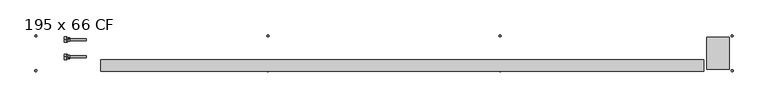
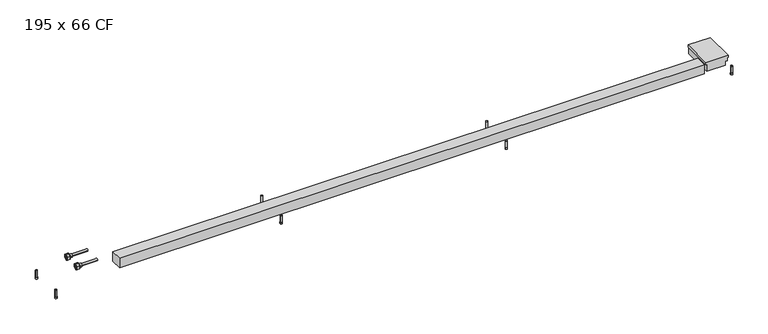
"""IFC4 building model written with IfcOpenShell, lengths in millimetres: proxy geometry, Mohlenhof_Внутрипольный конвектор_QSKM CF : 195 x 66 CF."""

import ifcopenshell
import ifcopenshell.guid

model = None  # the IFC model being written
_history = None  # IfcOwnerHistory: only IFC2X3 demands one
_inside = {}  # id of a spatial element -> (the spatial element, [elements in it])
_under = {}  # id of a project, library or spatial element -> (it, [spatial elements below it])
_declared = {}  # id of a project -> (the project, [libraries it declares])
_typed = {}  # id of a type object -> (the type object, [elements of that type])
_made_of = {}  # id of a material, layer set ... -> (it, [elements and type objects made of it])


def new_model(schema):
    """Start an empty IFC model of exactly this schema.

    Asked for "IFC4X3", IfcOpenShell would pick the latest addendum, in which some entities
    have other attributes; the version numbers below select the first issue.
    IFC2X3 requires an IfcOwnerHistory on every rooted entity: one is made here for all.
    """
    global model, _history
    if schema == "IFC4X3":
        model = ifcopenshell.file(schema_version=(4, 3, 0, 0))
    else:
        model = ifcopenshell.file(schema=schema)
    _inside.clear()
    _under.clear()
    _declared.clear()
    _typed.clear()
    _made_of.clear()
    _history = None
    if model.schema == "IFC2X3":
        org = make("IfcOrganization", Name="unknown")
        user = make(
            "IfcPersonAndOrganization",
            ThePerson=make("IfcPerson", FamilyName="unknown"),
            TheOrganization=org,
        )
        app = make(
            "IfcApplication",
            ApplicationDeveloper=org,
            Version="unknown",
            ApplicationFullName="unknown",
            ApplicationIdentifier="unknown",
        )
        _history = make(
            "IfcOwnerHistory",
            OwningUser=user,
            OwningApplication=app,
            ChangeAction="ADDED",
            CreationDate=0,
        )
    return model


def make(cls, **values):
    """One entity of the class cls with the attributes given. An attribute that is None is left unset."""
    return model.create_entity(
        cls, **{name: value for name, value in values.items() if value is not None}
    )


def rooted(cls, **values):
    """An entity with a GlobalId (a new one), such as an element, a storey or a relation."""
    return make(cls, GlobalId=ifcopenshell.guid.new(), OwnerHistory=_history, **values)


def si_unit(unit_type, name, prefix=None):
    """IfcSIUnit, for example si_unit("LENGTHUNIT", "METRE", prefix="MILLI")."""
    return make("IfcSIUnit", UnitType=unit_type, Prefix=prefix, Name=name)


def assignment(units):
    """IfcUnitAssignment: the units of a project."""
    return None if units is None else make("IfcUnitAssignment", Units=units)


def point(xyz):
    """IfcCartesianPoint."""
    return None if xyz is None else make("IfcCartesianPoint", Coordinates=xyz)


def direction(xyz):
    """IfcDirection."""
    return None if xyz is None else make("IfcDirection", DirectionRatios=xyz)


def frame(location, z_axis=None, x_axis=None):
    """IfcAxis2Placement3D, a coordinate frame: its origin and axes. An axis left out is left unset."""
    return make(
        "IfcAxis2Placement3D",
        Location=point(location),
        Axis=direction(z_axis),
        RefDirection=direction(x_axis),
    )


def frame_2d(location, x_axis=None):
    """IfcAxis2Placement2D, a coordinate frame in the plane: its origin and x axis."""
    return make(
        "IfcAxis2Placement2D", Location=point(location), RefDirection=direction(x_axis)
    )


def origin():
    """The frame at (0, 0, 0) with its axes left unset."""
    return frame((0.0, 0.0, 0.0))


def place(relative_to, where):
    """IfcLocalPlacement: puts the frame where relative to a parent placement (None: the world)."""
    return make(
        "IfcLocalPlacement", PlacementRelTo=relative_to, RelativePlacement=where
    )


def context(
    kind, dimensions, precision=None, world=None, true_north=None, identifier=None
):
    """IfcGeometricRepresentationContext, for example the 3D "Model" context."""
    return make(
        "IfcGeometricRepresentationContext",
        ContextIdentifier=identifier,
        ContextType=kind,
        CoordinateSpaceDimension=dimensions,
        Precision=precision,
        WorldCoordinateSystem=world,
        TrueNorth=true_north,
    )


def project(units=None, contexts=None):
    """IfcProject with its units and contexts."""
    return rooted(
        "IfcProject",
        Name="project",
        RepresentationContexts=contexts,
        UnitsInContext=assignment(units),
    )


def spatial(cls, under=None, at=None, **own):
    """A site, building, storey or space (cls), placed at a placement, below another one or the project."""
    s = rooted(cls, ObjectPlacement=at, **own)
    if under is not None:
        _under.setdefault(under.id(), (under, []))[1].append(s)
    return s


def polyline(points):
    """IfcPolyline through the points."""
    return make("IfcPolyline", Points=[point(p) for p in points])


def circle_curve(where, radius):
    """IfcCircle in the frame where."""
    return make("IfcCircle", Position=where, Radius=radius)


def trimmed(basis, trim1, trim2, sense, master):
    """IfcTrimmedCurve: the piece of a basis curve between two trims."""
    return make(
        "IfcTrimmedCurve",
        BasisCurve=basis,
        Trim1=trim1,
        Trim2=trim2,
        SenseAgreement=sense,
        MasterRepresentation=master,
    )


def segment(curve, same_sense, transition):
    """IfcCompositeCurveSegment."""
    return make(
        "IfcCompositeCurveSegment",
        Transition=transition,
        SameSense=same_sense,
        ParentCurve=curve,
    )


def composite_curve(segments, self_intersect=None):
    """IfcCompositeCurve: segments joined end to end."""
    return make("IfcCompositeCurve", Segments=segments, SelfIntersect=self_intersect)


def outline(outer, holes=None, kind="AREA"):
    """IfcArbitraryClosedProfileDef: a profile drawn as a closed curve; with holes, ...WithVoids."""
    if holes is None:
        return make("IfcArbitraryClosedProfileDef", ProfileType=kind, OuterCurve=outer)
    return make(
        "IfcArbitraryProfileDefWithVoids",
        ProfileType=kind,
        OuterCurve=outer,
        InnerCurves=holes,
    )


def extrude(swept, where, along, depth):
    """IfcExtrudedAreaSolid: the profile swept, set in the frame where, extruded along a direction by depth."""
    return make(
        "IfcExtrudedAreaSolid",
        SweptArea=swept,
        Position=where,
        ExtrudedDirection=direction(along),
        Depth=depth,
    )


def shape(context_of_items, identifier, shape_type, items):
    """IfcShapeRepresentation: the items that make up one representation, for example the "Body"."""
    return make(
        "IfcShapeRepresentation",
        ContextOfItems=context_of_items,
        RepresentationIdentifier=identifier,
        RepresentationType=shape_type,
        Items=items,
    )


def source(mapping_origin, context_of_items, identifier, shape_type, items):
    """IfcRepresentationMap: a shape defined once, which mapped items show again and again."""
    return make(
        "IfcRepresentationMap",
        MappingOrigin=mapping_origin,
        MappedRepresentation=shape(context_of_items, identifier, shape_type, items),
    )


def transform(
    local_origin,
    x_axis=None,
    y_axis=None,
    z_axis=None,
    scale=None,
    scale2=None,
    scale3=None,
    uniform=True,
):
    """IfcCartesianTransformationOperator3D, or its non-uniform kind. x_axis, y_axis, z_axis: its Axis1, 2, 3."""
    if uniform:
        return make(
            "IfcCartesianTransformationOperator3D",
            Axis1=direction(x_axis),
            Axis2=direction(y_axis),
            LocalOrigin=point(local_origin),
            Scale=scale,
            Axis3=direction(z_axis),
        )
    return make(
        "IfcCartesianTransformationOperator3DnonUniform",
        Axis1=direction(x_axis),
        Axis2=direction(y_axis),
        LocalOrigin=point(local_origin),
        Scale=scale,
        Axis3=direction(z_axis),
        Scale2=scale2,
        Scale3=scale3,
    )


def mapped(mapping_source, mapping_target):
    """IfcMappedItem: shows the shape of a source again, moved by a transform."""
    return make(
        "IfcMappedItem", MappingSource=mapping_source, MappingTarget=mapping_target
    )


def made_of(thing, what):
    """Note that an element or type object is made of a material, layer set ...; save() writes the relation."""
    if what is not None:
        _made_of.setdefault(what.id(), (what, []))[1].append(thing)
    return thing


def element(
    cls,
    number,
    at=None,
    inside=None,
    cuts=None,
    type_object=None,
    material=None,
    context=None,
    identifier="Body",
    shape_type=None,
    held_by="IfcProductDefinitionShape",
    body=None,
    shapes=None,
    **own,
):
    """One element of the class cls, such as IfcWall. Its Tag is "e" and its number.

    at: its placement. inside: the storey or other place that contains it. cuts: it is an
    opening in that element (IfcRelVoidsElement). A single representation is given by context,
    identifier, shape_type and body (its items); several are given by shapes. held_by: the class
    of the entity that holds the representations. save() writes the other relations.
    """
    e = rooted(cls, Tag="e%d" % number, ObjectPlacement=at, **own)
    if body is not None:
        shapes = [shape(context, identifier, shape_type, body)]
    if shapes is not None:
        e.Representation = make(held_by, Representations=shapes)
    if inside is not None:
        _inside.setdefault(inside.id(), (inside, []))[1].append(e)
    if cuts is not None:
        rooted(
            "IfcRelVoidsElement", RelatingBuildingElement=cuts, RelatedOpeningElement=e
        )
    if type_object is not None:
        _typed.setdefault(type_object.id(), (type_object, []))[1].append(e)
    return made_of(e, material)


def aggregate(whole, parts):
    """IfcRelAggregates: a whole, such as a stair, and the parts it consists of."""
    return rooted("IfcRelAggregates", RelatingObject=whole, RelatedObjects=parts)


def save(model, path):
    """Write the relations noted so far, then the file.

    IfcRelAggregates (storeys below a building ...), IfcRelContainedInSpatialStructure (elements
    in a storey), IfcRelDefinesByType, IfcRelAssociatesMaterial and IfcRelDeclares: one each for
    every whole, place, type object, material and project.
    """
    for whole, parts in _under.values():
        aggregate(whole, parts)
    for where, things in _inside.values():
        rooted(
            "IfcRelContainedInSpatialStructure",
            RelatedElements=things,
            RelatingStructure=where,
        )
    for kind, things in _typed.values():
        rooted("IfcRelDefinesByType", RelatedObjects=things, RelatingType=kind)
    for what, things in _made_of.values():
        rooted("IfcRelAssociatesMaterial", RelatedObjects=things, RelatingMaterial=what)
    for by, libraries in _declared.values():
        rooted("IfcRelDeclares", RelatingContext=by, RelatedDefinitions=libraries)
    model.write(path)


def plane_surface(at):
    """IfcPlane: the flat surface through the origin of the frame at, square to its z axis."""
    return make("IfcPlane", Position=at)


def cylinder_surface(at, radius):
    """IfcCylindricalSurface: all points at the distance radius from the z axis of the frame at."""
    return make("IfcCylindricalSurface", Position=at, Radius=radius)


def revolved_surface(curve, axis_point, axis_direction):
    """IfcSurfaceOfRevolution: the curve turned about the line through axis_point along axis_direction."""
    return make(
        "IfcSurfaceOfRevolution",
        SweptCurve=make("IfcArbitraryOpenProfileDef", ProfileType="CURVE", Curve=curve),
        AxisPosition=make("IfcAxis1Placement", Location=point(axis_point), Axis=direction(axis_direction)),
    )


def advanced_brep(points, edges, surfaces, faces):
    """IfcAdvancedBrep: a solid bounded by faces that lie on surfaces and meet in shared edges.

    An edge is (start, end): straight between two places in points (the first is 0);
    or (start, end, curve); or (start, end, curve, False) where it runs against its curve.
    A face is (place in surfaces, loops), or (place, loops, False) where it looks against
    its surface's normal. A loop lists edges by number (the first is 1), with a minus sign
    where the edge is run from its end to its start. The first loop is the outer one.
    """
    corners = [point(p) for p in points]
    vertices = [make("IfcVertexPoint", VertexGeometry=c) for c in corners]
    made = []
    for start, end, *more in edges:
        made.append(
            make(
                "IfcEdgeCurve",
                EdgeStart=vertices[start],
                EdgeEnd=vertices[end],
                EdgeGeometry=more[0] if more else make("IfcPolyline", Points=[corners[start], corners[end]]),
                SameSense=more[1] if len(more) > 1 else True,
            )
        )
    hull = []
    for where, loops, *sense in faces:
        bounds = []
        for j, loop in enumerate(loops):
            ring = [make("IfcOrientedEdge", EdgeElement=made[abs(k) - 1], Orientation=k > 0) for k in loop]
            bounds.append(
                make(
                    "IfcFaceOuterBound" if j == 0 else "IfcFaceBound",
                    Bound=make("IfcEdgeLoop", EdgeList=ring),
                    Orientation=True,
                )
            )
        hull.append(make("IfcAdvancedFace", Bounds=bounds, FaceSurface=surfaces[where], SameSense=sense[0] if sense else True))
    return make("IfcAdvancedBrep", Outer=make("IfcClosedShell", CfsFaces=hull))


def proxy_195_x_66_cf_45be2cf6(model_context):
    return source(origin(), model_context, "Body", "SolidModel", [
        extrude(outline(composite_curve([segment(trimmed(circle_curve(frame_2d((-508.3333333, -273.5)), 4.5), [point((-512.8333333, -273.5))], [point((-503.8333333, -273.5))], False, "CARTESIAN"), True, "CONTINUOUS"), segment(trimmed(circle_curve(frame_2d((-508.3333333, -273.5)), 4.5), [point((-503.8333333, -273.5))], [point((-512.8333333, -273.5))], False, "CARTESIAN"), True, "CONTINUOUS")], self_intersect=False)), frame((0.0, 0.0, -110.0), z_axis=(0.0, 0.0, 1.0), x_axis=(1.0, 0.0, 0.0)), (0.0, 0.0, 1.0), 7.0),
        extrude(outline(composite_curve([segment(trimmed(circle_curve(frame_2d((-508.3333333, -273.5)), 4.0), [point((-512.3333333, -273.5))], [point((-504.3333333, -273.5))], False, "CARTESIAN"), True, "CONTINUOUS"), segment(trimmed(circle_curve(frame_2d((-508.3333333, -273.5)), 4.0), [point((-504.3333333, -273.5))], [point((-512.3333333, -273.5))], False, "CARTESIAN"), True, "CONTINUOUS")], self_intersect=False)), frame((0.0, 0.0, -103.0), z_axis=(0.0, 0.0, 1.0), x_axis=(1.0, 0.0, 0.0)), (0.0, 0.0, 1.0), 32.5),
        extrude(outline(composite_curve([segment(trimmed(circle_curve(frame_2d((508.3333333, -273.5)), 4.5), [point((503.8333333, -273.5))], [point((512.8333333, -273.5))], False, "CARTESIAN"), True, "CONTINUOUS"), segment(trimmed(circle_curve(frame_2d((508.3333333, -273.5)), 4.5), [point((512.8333333, -273.5))], [point((503.8333333, -273.5))], False, "CARTESIAN"), True, "CONTINUOUS")], self_intersect=False)), frame((0.0, 0.0, -110.0), z_axis=(0.0, 0.0, 1.0), x_axis=(1.0, 0.0, 0.0)), (0.0, 0.0, 1.0), 7.0),
        extrude(outline(composite_curve([segment(trimmed(circle_curve(frame_2d((508.3333333, -273.5)), 4.0), [point((504.3333333, -273.5))], [point((512.3333333, -273.5))], False, "CARTESIAN"), True, "CONTINUOUS"), segment(trimmed(circle_curve(frame_2d((508.3333333, -273.5)), 4.0), [point((512.3333333, -273.5))], [point((504.3333333, -273.5))], False, "CARTESIAN"), True, "CONTINUOUS")], self_intersect=False)), frame((0.0, 0.0, -103.0), z_axis=(0.0, 0.0, 1.0), x_axis=(1.0, 0.0, 0.0)), (0.0, 0.0, 1.0), 32.5),
        extrude(outline(composite_curve([segment(trimmed(circle_curve(frame_2d((-508.3333333, -121.5)), 4.5), [point((-512.8333333, -121.5))], [point((-503.8333333, -121.5))], False, "CARTESIAN"), True, "CONTINUOUS"), segment(trimmed(circle_curve(frame_2d((-508.3333333, -121.5)), 4.5), [point((-503.8333333, -121.5))], [point((-512.8333333, -121.5))], False, "CARTESIAN"), True, "CONTINUOUS")], self_intersect=False)), frame((0.0, 0.0, -110.0), z_axis=(0.0, 0.0, 1.0), x_axis=(1.0, 0.0, 0.0)), (0.0, 0.0, 1.0), 7.0),
        extrude(outline(composite_curve([segment(trimmed(circle_curve(frame_2d((-508.3333333, -121.5)), 4.0), [point((-512.3333333, -121.5))], [point((-504.3333333, -121.5))], False, "CARTESIAN"), True, "CONTINUOUS"), segment(trimmed(circle_curve(frame_2d((-508.3333333, -121.5)), 4.0), [point((-504.3333333, -121.5))], [point((-512.3333333, -121.5))], False, "CARTESIAN"), True, "CONTINUOUS")], self_intersect=False)), frame((0.0, 0.0, -103.0), z_axis=(0.0, 0.0, 1.0), x_axis=(1.0, 0.0, 0.0)), (0.0, 0.0, 1.0), 32.5),
        extrude(outline(composite_curve([segment(trimmed(circle_curve(frame_2d((508.3333333, -121.5)), 4.5), [point((503.8333333, -121.5))], [point((512.8333333, -121.5))], False, "CARTESIAN"), True, "CONTINUOUS"), segment(trimmed(circle_curve(frame_2d((508.3333333, -121.5)), 4.5), [point((512.8333333, -121.5))], [point((503.8333333, -121.5))], False, "CARTESIAN"), True, "CONTINUOUS")], self_intersect=False)), frame((0.0, 0.0, -110.0), z_axis=(0.0, 0.0, 1.0), x_axis=(1.0, 0.0, 0.0)), (0.0, 0.0, 1.0), 7.0),
        extrude(outline(composite_curve([segment(trimmed(circle_curve(frame_2d((508.3333333, -121.5)), 4.0), [point((504.3333333, -121.5))], [point((512.3333333, -121.5))], False, "CARTESIAN"), True, "CONTINUOUS"), segment(trimmed(circle_curve(frame_2d((508.3333333, -121.5)), 4.0), [point((512.3333333, -121.5))], [point((504.3333333, -121.5))], False, "CARTESIAN"), True, "CONTINUOUS")], self_intersect=False)), frame((0.0, 0.0, -103.0), z_axis=(0.0, 0.0, 1.0), x_axis=(1.0, 0.0, 0.0)), (0.0, 0.0, 1.0), 32.5),
        advanced_brep(
        [(-1389.0, -213.0, -41.0), (-1389.0, -201.0, -41.0), (-1389.0, -225.0, -41.0), (-1376.5, -220.5, -41.0), (-1376.5, -205.5, -41.0), (-1376.5, -213.0, -41.0), (-1384.0, -220.5, -41.0), (-1384.0, -205.5, -41.0)],
        [
            (0, 1),
            (1, 2, circle_curve(frame((-1389.0, -213.0, -41.0), z_axis=(-1.0, 0.0, 0.0), x_axis=(0.0, 1.0, 0.0)), 12.0)),
            (2, 0),
            (2, 1, circle_curve(frame((-1389.0, -213.0, -41.0), z_axis=(-1.0, 0.0, 0.0), x_axis=(0.0, 1.0, 0.0)), 12.0)),
            (3, 4, circle_curve(frame((-1376.5, -213.0, -41.0), z_axis=(1.0, 0.0, 0.0), x_axis=(0.0, 1.0, 0.0)), 7.5)),
            (4, 5),
            (5, 3),
            (4, 3, circle_curve(frame((-1376.5, -213.0, -41.0), z_axis=(1.0, 0.0, 0.0), x_axis=(0.0, 1.0, 0.0)), 7.5)),
            (6, 7, circle_curve(frame((-1384.0, -213.0, -41.0), z_axis=(1.0, 0.0, 0.0), x_axis=(0.0, 1.0, 0.0)), 7.5)),
            (7, 4),
            (3, 6),
            (7, 6, circle_curve(frame((-1384.0, -213.0, -41.0), z_axis=(1.0, 0.0, 0.0), x_axis=(0.0, 1.0, 0.0)), 7.5)),
            (1, 7),
            (6, 2),
        ],
        [
            plane_surface(frame((-1389.0, -213.0, -41.0), z_axis=(-1.0, 0.0, 0.0), x_axis=(0.0, 1.0, 0.0))),
            plane_surface(frame((-1376.5, -213.0, -41.0), z_axis=(1.0, 0.0, 0.0), x_axis=(0.0, 1.0, 0.0))),
            cylinder_surface(frame((-1389.0, -213.0, -41.0), z_axis=(-1.0, 0.0, 0.0), x_axis=(0.0, 1.0, 0.0)), 7.5),
            revolved_surface(polyline([(-1384.0, -205.5, -41.0), (-1389.0, -201.0, -41.0)]), (-1389.0, -213.0, -41.0), (-1.0, 0.0, 0.0)),
        ],
        [
            (0, [[1, 2, 3]]),
            (0, [[-3, 4, -1]]),
            (1, [[5, 6, 7]]),
            (1, [[8, -7, -6]]),
            (2, [[9, 10, -5, 11]]),
            (2, [[12, -11, -8, -10]]),
            (3, [[-2, 13, -9, 14]]),
            (3, [[-4, -14, -12, -13]]),
        ],
    ),
        extrude(outline(polyline([(-213.0, -27.1435935), (-201.0, -34.0717968), (-201.0, -47.9282032), (-213.0, -54.8564065), (-225.0, -47.9282032), (-225.0, -34.0717968), (-213.0, -27.1435935)]), holes=[composite_curve([segment(trimmed(circle_curve(frame_2d((-213.0, -41.0)), 8.5), [point((-204.5, -41.0))], [point((-221.5, -41.0))], True, "CARTESIAN"), True, "CONTINUOUS"), segment(trimmed(circle_curve(frame_2d((-213.0, -41.0)), 8.5), [point((-221.5, -41.0))], [point((-204.5, -41.0))], True, "CARTESIAN"), True, "CONTINUOUS")], self_intersect=False)]), frame((-1400.0, 0.0, 0.0), z_axis=(1.0, 0.0, 0.0), x_axis=(0.0, 1.0, 0.0)), (0.0, 0.0, 1.0), 11.0),
        advanced_brep(
        [(-1389.0, -138.0, -41.0), (-1389.0, -126.0, -41.0), (-1389.0, -150.0, -41.0), (-1376.5, -145.5, -41.0), (-1376.5, -130.5, -41.0), (-1376.5, -138.0, -41.0), (-1384.0, -145.5, -41.0), (-1384.0, -130.5, -41.0)],
        [
            (0, 1),
            (1, 2, circle_curve(frame((-1389.0, -138.0, -41.0), z_axis=(-1.0, 0.0, 0.0), x_axis=(0.0, 1.0, 0.0)), 12.0)),
            (2, 0),
            (2, 1, circle_curve(frame((-1389.0, -138.0, -41.0), z_axis=(-1.0, 0.0, 0.0), x_axis=(0.0, 1.0, 0.0)), 12.0)),
            (3, 4, circle_curve(frame((-1376.5, -138.0, -41.0), z_axis=(1.0, 0.0, 0.0), x_axis=(0.0, 1.0, 0.0)), 7.5)),
            (4, 5),
            (5, 3),
            (4, 3, circle_curve(frame((-1376.5, -138.0, -41.0), z_axis=(1.0, 0.0, 0.0), x_axis=(0.0, 1.0, 0.0)), 7.5)),
            (6, 7, circle_curve(frame((-1384.0, -138.0, -41.0), z_axis=(1.0, 0.0, 0.0), x_axis=(0.0, 1.0, 0.0)), 7.5)),
            (7, 4),
            (3, 6),
            (7, 6, circle_curve(frame((-1384.0, -138.0, -41.0), z_axis=(1.0, 0.0, 0.0), x_axis=(0.0, 1.0, 0.0)), 7.5)),
            (1, 7),
            (6, 2),
        ],
        [
            plane_surface(frame((-1389.0, -138.0, -41.0), z_axis=(-1.0, 0.0, 0.0), x_axis=(0.0, 1.0, 0.0))),
            plane_surface(frame((-1376.5, -138.0, -41.0), z_axis=(1.0, 0.0, 0.0), x_axis=(0.0, 1.0, 0.0))),
            cylinder_surface(frame((-1389.0, -138.0, -41.0), z_axis=(-1.0, 0.0, 0.0), x_axis=(0.0, 1.0, 0.0)), 7.5),
            revolved_surface(polyline([(-1384.0, -130.5, -41.0), (-1389.0, -126.0, -41.0)]), (-1389.0, -138.0, -41.0), (-1.0, 0.0, 0.0)),
        ],
        [
            (0, [[1, 2, 3]]),
            (0, [[-3, 4, -1]]),
            (1, [[5, 6, 7]]),
            (1, [[8, -7, -6]]),
            (2, [[9, 10, -5, 11]]),
            (2, [[12, -11, -8, -10]]),
            (3, [[-2, 13, -9, 14]]),
            (3, [[-4, -14, -12, -13]]),
        ],
    ),
        extrude(outline(polyline([(-138.0, -27.1435935), (-126.0, -34.0717968), (-126.0, -47.9282032), (-138.0, -54.8564065), (-150.0, -47.9282032), (-150.0, -34.0717968), (-138.0, -27.1435935)]), holes=[composite_curve([segment(trimmed(circle_curve(frame_2d((-138.0, -41.0)), 8.5), [point((-129.5, -41.0))], [point((-146.5, -41.0))], True, "CARTESIAN"), True, "CONTINUOUS"), segment(trimmed(circle_curve(frame_2d((-138.0, -41.0)), 8.5), [point((-146.5, -41.0))], [point((-129.5, -41.0))], True, "CARTESIAN"), True, "CONTINUOUS")], self_intersect=False)]), frame((-1400.0, 0.0, 0.0), z_axis=(1.0, 0.0, 0.0), x_axis=(0.0, 1.0, 0.0)), (0.0, 0.0, 1.0), 11.0),
        extrude(outline(composite_curve([segment(trimmed(circle_curve(frame_2d((-1525.0, -273.5)), 4.5), [point((-1529.5, -273.5))], [point((-1520.5, -273.5))], False, "CARTESIAN"), True, "CONTINUOUS"), segment(trimmed(circle_curve(frame_2d((-1525.0, -273.5)), 4.5), [point((-1520.5, -273.5))], [point((-1529.5, -273.5))], False, "CARTESIAN"), True, "CONTINUOUS")], self_intersect=False)), frame((0.0, 0.0, -110.0), z_axis=(0.0, 0.0, 1.0), x_axis=(1.0, 0.0, 0.0)), (0.0, 0.0, 1.0), 7.0),
        extrude(outline(composite_curve([segment(trimmed(circle_curve(frame_2d((-1525.0, -273.5)), 4.0), [point((-1529.0, -273.5))], [point((-1521.0, -273.5))], False, "CARTESIAN"), True, "CONTINUOUS"), segment(trimmed(circle_curve(frame_2d((-1525.0, -273.5)), 4.0), [point((-1521.0, -273.5))], [point((-1529.0, -273.5))], False, "CARTESIAN"), True, "CONTINUOUS")], self_intersect=False)), frame((0.0, 0.0, -103.0), z_axis=(0.0, 0.0, 1.0), x_axis=(1.0, 0.0, 0.0)), (0.0, 0.0, 1.0), 32.5),
        extrude(outline(composite_curve([segment(trimmed(circle_curve(frame_2d((-1525.0, -121.5)), 4.5), [point((-1529.5, -121.5))], [point((-1520.5, -121.5))], False, "CARTESIAN"), True, "CONTINUOUS"), segment(trimmed(circle_curve(frame_2d((-1525.0, -121.5)), 4.5), [point((-1520.5, -121.5))], [point((-1529.5, -121.5))], False, "CARTESIAN"), True, "CONTINUOUS")], self_intersect=False)), frame((0.0, 0.0, -110.0), z_axis=(0.0, 0.0, 1.0), x_axis=(1.0, 0.0, 0.0)), (0.0, 0.0, 1.0), 7.0),
        extrude(outline(composite_curve([segment(trimmed(circle_curve(frame_2d((-1525.0, -121.5)), 4.0), [point((-1529.0, -121.5))], [point((-1521.0, -121.5))], False, "CARTESIAN"), True, "CONTINUOUS"), segment(trimmed(circle_curve(frame_2d((-1525.0, -121.5)), 4.0), [point((-1521.0, -121.5))], [point((-1529.0, -121.5))], False, "CARTESIAN"), True, "CONTINUOUS")], self_intersect=False)), frame((0.0, 0.0, -103.0), z_axis=(0.0, 0.0, 1.0), x_axis=(1.0, 0.0, 0.0)), (0.0, 0.0, 1.0), 32.5),
        extrude(outline(composite_curve([segment(trimmed(circle_curve(frame_2d((1525.0, -273.5)), 4.5), [point((1520.5, -273.5))], [point((1529.5, -273.5))], False, "CARTESIAN"), True, "CONTINUOUS"), segment(trimmed(circle_curve(frame_2d((1525.0, -273.5)), 4.5), [point((1529.5, -273.5))], [point((1520.5, -273.5))], False, "CARTESIAN"), True, "CONTINUOUS")], self_intersect=False)), frame((0.0, 0.0, -110.0), z_axis=(0.0, 0.0, 1.0), x_axis=(1.0, 0.0, 0.0)), (0.0, 0.0, 1.0), 7.0),
        extrude(outline(composite_curve([segment(trimmed(circle_curve(frame_2d((1525.0, -273.5)), 4.0), [point((1521.0, -273.5))], [point((1529.0, -273.5))], False, "CARTESIAN"), True, "CONTINUOUS"), segment(trimmed(circle_curve(frame_2d((1525.0, -273.5)), 4.0), [point((1529.0, -273.5))], [point((1521.0, -273.5))], False, "CARTESIAN"), True, "CONTINUOUS")], self_intersect=False)), frame((0.0, 0.0, -103.0), z_axis=(0.0, 0.0, 1.0), x_axis=(1.0, 0.0, 0.0)), (0.0, 0.0, 1.0), 32.5),
        extrude(outline(composite_curve([segment(trimmed(circle_curve(frame_2d((1525.0, -121.5)), 4.5), [point((1520.5, -121.5))], [point((1529.5, -121.5))], False, "CARTESIAN"), True, "CONTINUOUS"), segment(trimmed(circle_curve(frame_2d((1525.0, -121.5)), 4.5), [point((1529.5, -121.5))], [point((1520.5, -121.5))], False, "CARTESIAN"), True, "CONTINUOUS")], self_intersect=False)), frame((0.0, 0.0, -110.0), z_axis=(0.0, 0.0, 1.0), x_axis=(1.0, 0.0, 0.0)), (0.0, 0.0, 1.0), 7.0),
        extrude(outline(composite_curve([segment(trimmed(circle_curve(frame_2d((1525.0, -121.5)), 4.0), [point((1521.0, -121.5))], [point((1529.0, -121.5))], False, "CARTESIAN"), True, "CONTINUOUS"), segment(trimmed(circle_curve(frame_2d((1525.0, -121.5)), 4.0), [point((1529.0, -121.5))], [point((1521.0, -121.5))], False, "CARTESIAN"), True, "CONTINUOUS")], self_intersect=False)), frame((0.0, 0.0, -103.0), z_axis=(0.0, 0.0, 1.0), x_axis=(1.0, 0.0, 0.0)), (0.0, 0.0, 1.0), 32.5),
        extrude(outline(polyline([(-62.5, 1501.0), (-44.5, 1501.0), (-44.5, 1510.0), (-29.5, 1510.0), (-29.5, 1513.0), (-19.5, 1513.0), (-19.5, 1413.0), (-29.5, 1413.0), (-29.5, 1416.0), (-62.5, 1416.0), (-62.5, 1501.0)])), frame((0.0, -267.5, 0.0), z_axis=(0.0, 1.0, 0.0), x_axis=(0.0, 0.0, 1.0)), (0.0, 0.0, 1.0), 140.0),
        extrude(outline(polyline([(1400.0, -225.87), (1400.0, -277.18), (-1240.0, -277.18), (-1240.0, -225.87), (1400.0, -225.87)])), frame((0.0, 0.0, -62.5), z_axis=(0.0, 0.0, 1.0), x_axis=(1.0, 0.0, 0.0)), (0.0, 0.0, 1.0), 43.62),
        extrude(outline(composite_curve([segment(trimmed(circle_curve(frame_2d((-213.0, -41.0)), 5.0), [point((-218.0, -41.0))], [point((-208.0, -41.0))], False, "CARTESIAN"), True, "CONTINUOUS"), segment(trimmed(circle_curve(frame_2d((-213.0, -41.0)), 5.0), [point((-208.0, -41.0))], [point((-218.0, -41.0))], False, "CARTESIAN"), True, "CONTINUOUS")], self_intersect=False)), frame((-1400.0, 0.0, 0.0), z_axis=(1.0, 0.0, 0.0), x_axis=(0.0, 1.0, 0.0)), (0.0, 0.0, 1.0), 95.0),
        extrude(outline(composite_curve([segment(trimmed(circle_curve(frame_2d((-138.0, -41.0)), 5.0), [point((-143.0, -41.0))], [point((-133.0, -41.0))], False, "CARTESIAN"), True, "CONTINUOUS"), segment(trimmed(circle_curve(frame_2d((-138.0, -41.0)), 5.0), [point((-133.0, -41.0))], [point((-143.0, -41.0))], False, "CARTESIAN"), True, "CONTINUOUS")], self_intersect=False)), frame((-1400.0, 0.0, 0.0), z_axis=(1.0, 0.0, 0.0), x_axis=(0.0, 1.0, 0.0)), (0.0, 0.0, 1.0), 95.0),
    ])


if __name__ == "__main__":
    model = new_model("IFC4")
    model_context = context("Model", 3, world=origin())
    ifc_project = project(units=[si_unit("LENGTHUNIT", "METRE", prefix="MILLI")], contexts=[model_context])
    site = spatial("IfcSite", under=ifc_project)
    building = spatial("IfcBuilding", under=site)
    placement = place(None, origin())
    proxy_195_x_66_cf_shape = proxy_195_x_66_cf_45be2cf6(model_context)
    element("IfcBuildingElementProxy", 1, Name="Mohlenhof_Внутрипольный конвектор_QSKM CF : 195 x 66 CF", ObjectType="Mohlenhof_Внутрипольный конвектор_QSKM CF : 195 x 66 CF", at=placement, inside=building, context=model_context, shape_type="MappedRepresentation", body=[
        mapped(proxy_195_x_66_cf_shape, transform((0.0, 0.0, 0.0), x_axis=(1.0, 0.0, 0.0), y_axis=(0.0, 1.0, 0.0), z_axis=(0.0, 0.0, 1.0))),
    ])
    save(model, "model.ifc")
